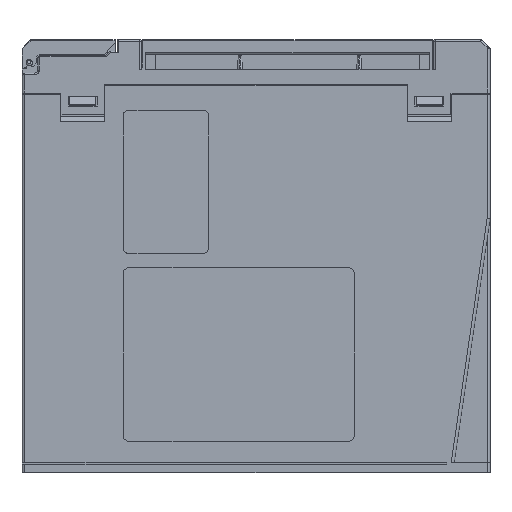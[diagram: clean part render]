
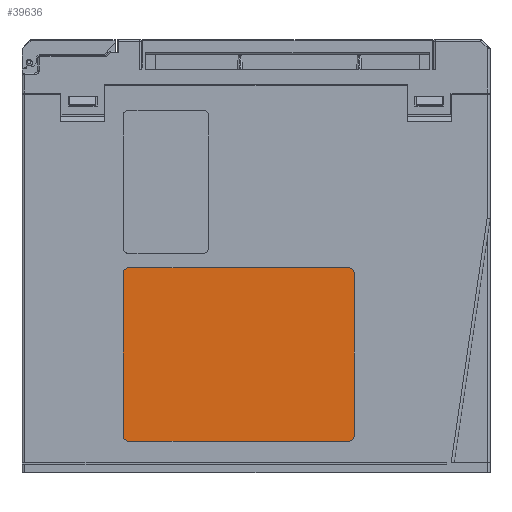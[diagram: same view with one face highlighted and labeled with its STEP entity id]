
A CAD part, left-side view. The second image highlights one B-rep face of the part: STEP entity #39636.
In plain terms, the highlighted planar face has unit normal (-1, 0, 0).
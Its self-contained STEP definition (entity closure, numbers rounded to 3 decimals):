
#39561=CARTESIAN_POINT('',(-13.7,-52.0,41.));
#39562=DIRECTION('',(-1.0,0.0,0.0));
#39563=DIRECTION('',(0.0,0.0,1.0));
#39564=AXIS2_PLACEMENT_3D('',#39561,#39562,#39563);
#39565=PLANE('',#39564);
#39566=CARTESIAN_POINT('',(-13.7,-12.,69.0));
#39567=VERTEX_POINT('',#39566);
#39568=CARTESIAN_POINT('',(-13.7,-14.,71.0));
#39569=VERTEX_POINT('',#39568);
#39570=CARTESIAN_POINT('',(-13.7,-14.,69.0));
#39571=DIRECTION('',(1.0,0.0,0.0));
#39572=DIRECTION('',(0.0,0.0,-1.0));
#39573=AXIS2_PLACEMENT_3D('',#39570,#39571,#39572);
#39574=CIRCLE('',#39573,2.);
#39575=EDGE_CURVE('',#39567,#39569,#39574,.T.);
#39576=ORIENTED_EDGE('',*,*,#39575,.F.);
#39577=CARTESIAN_POINT('',(-13.7,-12.,13.0));
#39578=VERTEX_POINT('',#39577);
#39579=CARTESIAN_POINT('',(-13.7,-12.,13.0));
#39580=DIRECTION('',(0.0,0.0,1.0));
#39581=VECTOR('',#39580,56.0);
#39582=LINE('',#39579,#39581);
#39583=EDGE_CURVE('',#39578,#39567,#39582,.T.);
#39584=ORIENTED_EDGE('',*,*,#39583,.F.);
#39585=CARTESIAN_POINT('',(-13.7,-14.,11.0));
#39586=VERTEX_POINT('',#39585);
#39587=CARTESIAN_POINT('',(-13.7,-14.,13.0));
#39588=DIRECTION('',(1.0,0.0,0.0));
#39589=DIRECTION('',(0.0,-1.0,0.0));
#39590=AXIS2_PLACEMENT_3D('',#39587,#39588,#39589);
#39591=CIRCLE('',#39590,2.);
#39592=EDGE_CURVE('',#39586,#39578,#39591,.T.);
#39593=ORIENTED_EDGE('',*,*,#39592,.F.);
#39594=CARTESIAN_POINT('',(-13.7,-90.0,11.0));
#39595=VERTEX_POINT('',#39594);
#39596=CARTESIAN_POINT('',(-13.7,-90.0,11.0));
#39597=DIRECTION('',(0.0,1.0,0.0));
#39598=VECTOR('',#39597,76.0);
#39599=LINE('',#39596,#39598);
#39600=EDGE_CURVE('',#39595,#39586,#39599,.T.);
#39601=ORIENTED_EDGE('',*,*,#39600,.F.);
#39602=CARTESIAN_POINT('',(-13.7,-92.,13.0));
#39603=VERTEX_POINT('',#39602);
#39604=CARTESIAN_POINT('',(-13.7,-90.0,13.0));
#39605=DIRECTION('',(1.0,0.0,0.0));
#39606=DIRECTION('',(0.0,0.0,1.0));
#39607=AXIS2_PLACEMENT_3D('',#39604,#39605,#39606);
#39608=CIRCLE('',#39607,2.);
#39609=EDGE_CURVE('',#39603,#39595,#39608,.T.);
#39610=ORIENTED_EDGE('',*,*,#39609,.F.);
#39611=CARTESIAN_POINT('',(-13.7,-92.,69.0));
#39612=VERTEX_POINT('',#39611);
#39613=CARTESIAN_POINT('',(-13.7,-92.,69.0));
#39614=DIRECTION('',(0.0,0.0,-1.0));
#39615=VECTOR('',#39614,56.0);
#39616=LINE('',#39613,#39615);
#39617=EDGE_CURVE('',#39612,#39603,#39616,.T.);
#39618=ORIENTED_EDGE('',*,*,#39617,.F.);
#39619=CARTESIAN_POINT('',(-13.7,-90.0,71.0));
#39620=VERTEX_POINT('',#39619);
#39621=CARTESIAN_POINT('',(-13.7,-90.0,69.0));
#39622=DIRECTION('',(1.0,0.0,0.0));
#39623=DIRECTION('',(0.0,1.0,0.0));
#39624=AXIS2_PLACEMENT_3D('',#39621,#39622,#39623);
#39625=CIRCLE('',#39624,2.);
#39626=EDGE_CURVE('',#39620,#39612,#39625,.T.);
#39627=ORIENTED_EDGE('',*,*,#39626,.F.);
#39628=CARTESIAN_POINT('',(-13.7,-14.,71.0));
#39629=DIRECTION('',(0.0,-1.0,0.0));
#39630=VECTOR('',#39629,76.0);
#39631=LINE('',#39628,#39630);
#39632=EDGE_CURVE('',#39569,#39620,#39631,.T.);
#39633=ORIENTED_EDGE('',*,*,#39632,.F.);
#39634=EDGE_LOOP('',(#39576,#39584,#39593,#39601,#39610,#39618,#39627,#39633));
#39635=FACE_OUTER_BOUND('',#39634,.T.);
#39636=ADVANCED_FACE('',(#39635),#39565,.T.);
